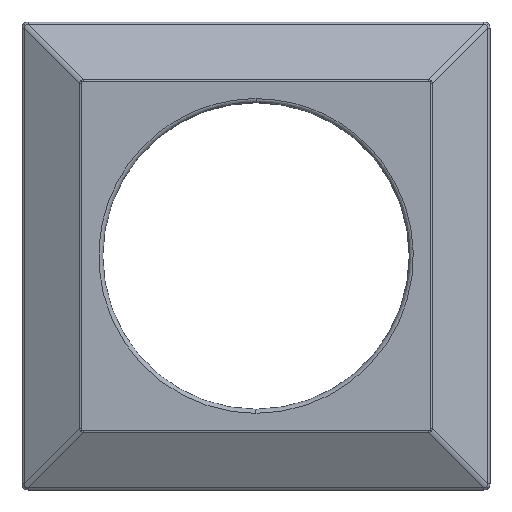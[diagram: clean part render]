
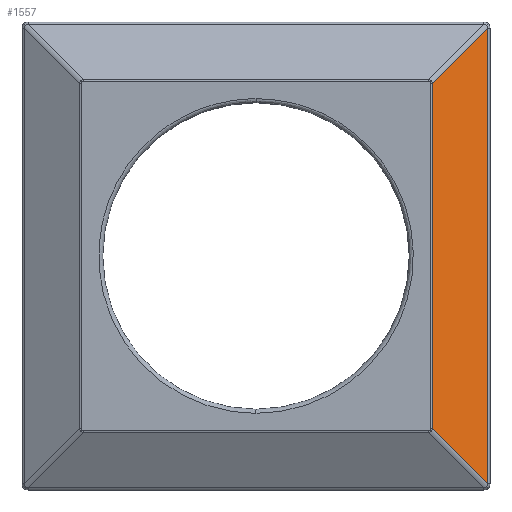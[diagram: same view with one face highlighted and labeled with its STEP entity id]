
A CAD part, front view. The second image highlights one B-rep face of the part: STEP entity #1557.
In plain terms, the highlighted planar face has unit normal (0.5, -0.866, 0).
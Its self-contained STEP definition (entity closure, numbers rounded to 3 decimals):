
#42 = DIRECTION ( 'NONE',  ( 0.5, -0.866, 0. ) ) ;
#84 = CARTESIAN_POINT ( 'NONE',  ( 56.768, -1.866, -55.768 ) ) ;
#232 = ORIENTED_EDGE ( 'NONE', *, *, #1411, .T. ) ;
#285 = VECTOR ( 'NONE', #986, 1000. ) ;
#288 = CARTESIAN_POINT ( 'NONE',  ( 43.258, -9.666, 42.258 ) ) ;
#313 = EDGE_CURVE ( 'NONE', #508, #1442, #2136, .T. ) ;
#351 = VECTOR ( 'NONE', #1613, 1000. ) ;
#435 = LINE ( 'NONE', #2351, #2280 ) ;
#508 = VERTEX_POINT ( 'NONE', #1305 ) ;
#517 = CARTESIAN_POINT ( 'NONE',  ( 56.768, -1.866, -60. ) ) ;
#617 = EDGE_CURVE ( 'NONE', #2347, #2300, #1473, .T. ) ;
#673 = CARTESIAN_POINT ( 'NONE',  ( 56.768, -1.866, 55.768 ) ) ;
#811 = DIRECTION ( 'NONE',  ( 0.655, 0.378, -0.655 ) ) ;
#923 = EDGE_LOOP ( 'NONE', ( #1626, #2350, #2168, #232 ) ) ;
#986 = DIRECTION ( 'NONE',  ( 0., 0., 1. ) ) ;
#1065 = FACE_OUTER_BOUND ( 'NONE', #923, .T. ) ;
#1124 = CARTESIAN_POINT ( 'NONE',  ( 60., 0., -60. ) ) ;
#1305 = CARTESIAN_POINT ( 'NONE',  ( 43.258, -9.666, -42.258 ) ) ;
#1326 = DIRECTION ( 'NONE',  ( 0.866, 0.5, 0. ) ) ;
#1411 = EDGE_CURVE ( 'NONE', #1442, #2347, #1673, .T. ) ;
#1442 = VERTEX_POINT ( 'NONE', #84 ) ;
#1473 = LINE ( 'NONE', #2179, #351 ) ;
#1557 = ADVANCED_FACE ( 'NONE', ( #1065 ), #2246, .T. ) ;
#1613 = DIRECTION ( 'NONE',  ( -0.655, -0.378, -0.655 ) ) ;
#1626 = ORIENTED_EDGE ( 'NONE', *, *, #617, .T. ) ;
#1673 = LINE ( 'NONE', #517, #285 ) ;
#1972 = DIRECTION ( 'NONE',  ( 0., 0., 1. ) ) ;
#2040 = CARTESIAN_POINT ( 'NONE',  ( 43.258, -9.666, -42.258 ) ) ;
#2070 = VECTOR ( 'NONE', #811, 1000. ) ;
#2083 = EDGE_CURVE ( 'NONE', #508, #2300, #435, .T. ) ;
#2136 = LINE ( 'NONE', #2040, #2070 ) ;
#2168 = ORIENTED_EDGE ( 'NONE', *, *, #313, .T. ) ;
#2179 = CARTESIAN_POINT ( 'NONE',  ( 56.768, -1.866, 55.768 ) ) ;
#2246 = PLANE ( 'NONE',  #2355 ) ;
#2280 = VECTOR ( 'NONE', #1972, 1000. ) ;
#2300 = VERTEX_POINT ( 'NONE', #288 ) ;
#2347 = VERTEX_POINT ( 'NONE', #673 ) ;
#2350 = ORIENTED_EDGE ( 'NONE', *, *, #2083, .F. ) ;
#2351 = CARTESIAN_POINT ( 'NONE',  ( 43.258, -9.666, 0. ) ) ;
#2355 = AXIS2_PLACEMENT_3D ( 'NONE', #1124, #42, #1326 ) ;
